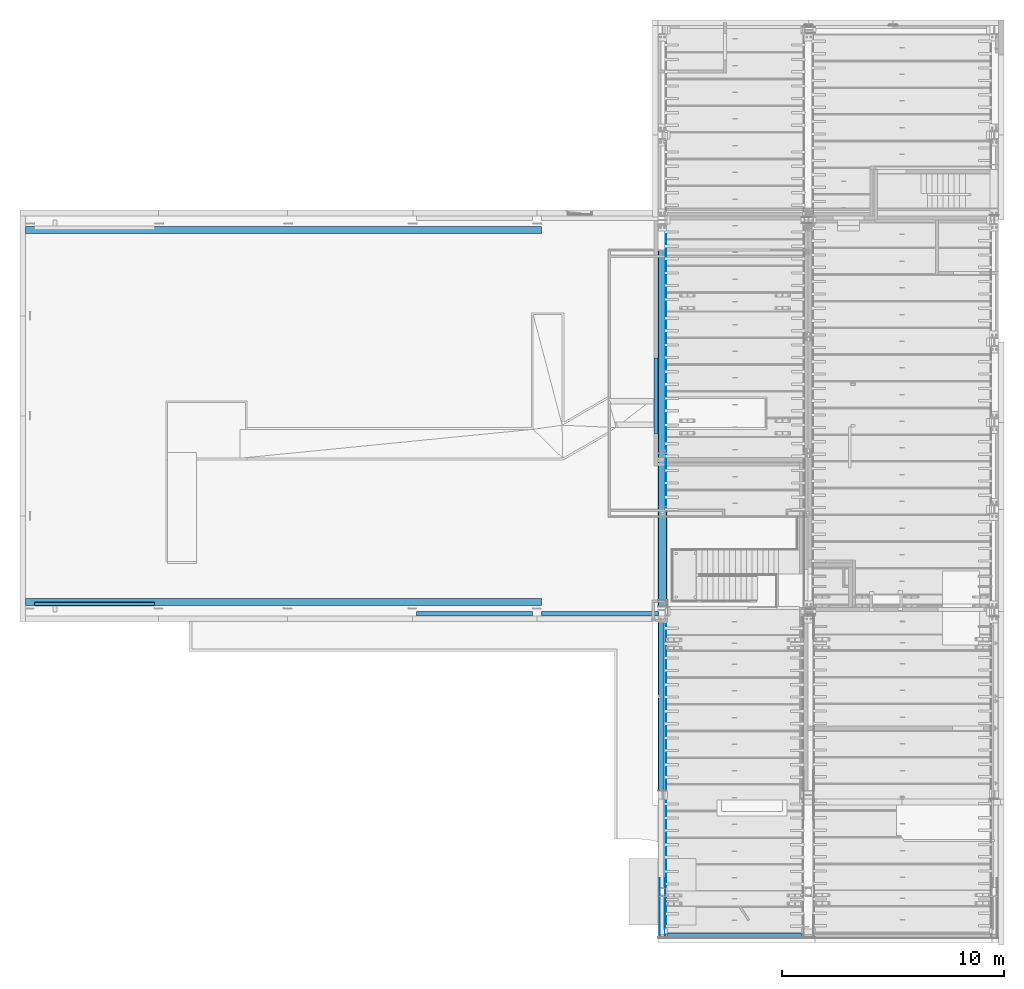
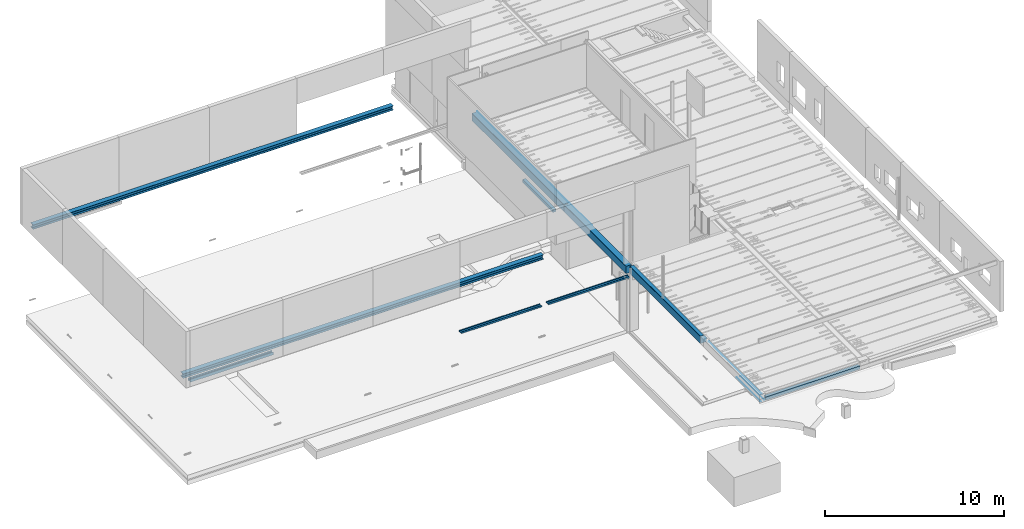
# One storey, part 7 of 230: 16 beams.
"""IFC4X3_ADD2 building model written with IfcOpenShell, lengths in millimetres."""

import ifcopenshell
import ifcopenshell.guid

model = None  # the IFC model being written
_history = None  # IfcOwnerHistory: only IFC2X3 demands one
_inside = {}  # id of a spatial element -> (the spatial element, [elements in it])
_under = {}  # id of a project, library or spatial element -> (it, [spatial elements below it])
_declared = {}  # id of a project -> (the project, [libraries it declares])
_typed = {}  # id of a type object -> (the type object, [elements of that type])
_made_of = {}  # id of a material, layer set ... -> (it, [elements and type objects made of it])


def new_model(schema):
    """Start an empty IFC model of exactly this schema.

    Asked for "IFC4X3", IfcOpenShell would pick the latest addendum, in which some entities
    have other attributes; the version numbers below select the first issue.
    IFC2X3 requires an IfcOwnerHistory on every rooted entity: one is made here for all.
    """
    global model, _history
    if schema == "IFC4X3":
        model = ifcopenshell.file(schema_version=(4, 3, 0, 0))
    else:
        model = ifcopenshell.file(schema=schema)
    _inside.clear()
    _under.clear()
    _declared.clear()
    _typed.clear()
    _made_of.clear()
    _history = None
    if model.schema == "IFC2X3":
        org = make("IfcOrganization", Name="unknown")
        user = make(
            "IfcPersonAndOrganization",
            ThePerson=make("IfcPerson", FamilyName="unknown"),
            TheOrganization=org,
        )
        app = make(
            "IfcApplication",
            ApplicationDeveloper=org,
            Version="unknown",
            ApplicationFullName="unknown",
            ApplicationIdentifier="unknown",
        )
        _history = make(
            "IfcOwnerHistory",
            OwningUser=user,
            OwningApplication=app,
            ChangeAction="ADDED",
            CreationDate=0,
        )
    return model


def make(cls, **values):
    """One entity of the class cls with the attributes given. An attribute that is None is left unset."""
    return model.create_entity(
        cls, **{name: value for name, value in values.items() if value is not None}
    )


def rooted(cls, **values):
    """An entity with a GlobalId (a new one), such as an element, a storey or a relation."""
    return make(cls, GlobalId=ifcopenshell.guid.new(), OwnerHistory=_history, **values)


def si_unit(unit_type, name, prefix=None):
    """IfcSIUnit, for example si_unit("LENGTHUNIT", "METRE", prefix="MILLI")."""
    return make("IfcSIUnit", UnitType=unit_type, Prefix=prefix, Name=name)


def assignment(units):
    """IfcUnitAssignment: the units of a project."""
    return None if units is None else make("IfcUnitAssignment", Units=units)


def point(xyz):
    """IfcCartesianPoint."""
    return None if xyz is None else make("IfcCartesianPoint", Coordinates=xyz)


def direction(xyz):
    """IfcDirection."""
    return None if xyz is None else make("IfcDirection", DirectionRatios=xyz)


def frame(location, z_axis=None, x_axis=None):
    """IfcAxis2Placement3D, a coordinate frame: its origin and axes. An axis left out is left unset."""
    return make(
        "IfcAxis2Placement3D",
        Location=point(location),
        Axis=direction(z_axis),
        RefDirection=direction(x_axis),
    )


def frame_2d(location, x_axis=None):
    """IfcAxis2Placement2D, a coordinate frame in the plane: its origin and x axis."""
    return make(
        "IfcAxis2Placement2D", Location=point(location), RefDirection=direction(x_axis)
    )


def origin_with_axes():
    """The frame at (0, 0, 0) with the z axis (0, 0, 1) and the x axis (1, 0, 0) written out."""
    return frame((0.0, 0.0, 0.0), z_axis=(0.0, 0.0, 1.0), x_axis=(1.0, 0.0, 0.0))


def place(relative_to, where):
    """IfcLocalPlacement: puts the frame where relative to a parent placement (None: the world)."""
    return make(
        "IfcLocalPlacement", PlacementRelTo=relative_to, RelativePlacement=where
    )


def context(
    kind, dimensions, precision=None, world=None, true_north=None, identifier=None
):
    """IfcGeometricRepresentationContext, for example the 3D "Model" context."""
    return make(
        "IfcGeometricRepresentationContext",
        ContextIdentifier=identifier,
        ContextType=kind,
        CoordinateSpaceDimension=dimensions,
        Precision=precision,
        WorldCoordinateSystem=world,
        TrueNorth=true_north,
    )


def subcontext(parent, identifier, kind, view, scale=None):
    """IfcGeometricRepresentationSubContext, for example "Body" below "Model"."""
    return make(
        "IfcGeometricRepresentationSubContext",
        ContextIdentifier=identifier,
        ContextType=kind,
        ParentContext=parent,
        TargetScale=scale,
        TargetView=view,
    )


def project(units=None, contexts=None):
    """IfcProject with its units and contexts."""
    return rooted(
        "IfcProject",
        Name="project",
        RepresentationContexts=contexts,
        UnitsInContext=assignment(units),
    )


def spatial(cls, under=None, at=None, **own):
    """A site, building, storey or space (cls), placed at a placement, below another one or the project."""
    s = rooted(cls, ObjectPlacement=at, **own)
    if under is not None:
        _under.setdefault(under.id(), (under, []))[1].append(s)
    return s


def point_list(points):
    """IfcCartesianPointList2D or 3D."""
    cls = (
        "IfcCartesianPointList2D" if len(points[0]) == 2 else "IfcCartesianPointList3D"
    )
    return make(cls, CoordList=points)


def indexed_curve(points, segments=None, self_intersect=None):
    """IfcIndexedPolyCurve: lines and arcs through numbered points (the first is 1)."""
    return make(
        "IfcIndexedPolyCurve",
        Points=point_list(points),
        Segments=segments,
        SelfIntersect=self_intersect,
    )


def profile(cls, at=None, kind="AREA", **sizes):
    """A parametric profile (cls). Its sizes go by their IFC names, for example OverallWidth=200.0."""
    return make(cls, ProfileType=kind, Position=at, **sizes)


def rectangle(**sizes):
    """IfcRectangleProfileDef."""
    return profile("IfcRectangleProfileDef", **sizes)


def i_section(**sizes):
    """IfcIShapeProfileDef."""
    return profile("IfcIShapeProfileDef", **sizes)


def outline(outer, holes=None, kind="AREA"):
    """IfcArbitraryClosedProfileDef: a profile drawn as a closed curve; with holes, ...WithVoids."""
    if holes is None:
        return make("IfcArbitraryClosedProfileDef", ProfileType=kind, OuterCurve=outer)
    return make(
        "IfcArbitraryProfileDefWithVoids",
        ProfileType=kind,
        OuterCurve=outer,
        InnerCurves=holes,
    )


def extrude(swept, where, along, depth):
    """IfcExtrudedAreaSolid: the profile swept, set in the frame where, extruded along a direction by depth."""
    return make(
        "IfcExtrudedAreaSolid",
        SweptArea=swept,
        Position=where,
        ExtrudedDirection=direction(along),
        Depth=depth,
    )


def shape(context_of_items, identifier, shape_type, items):
    """IfcShapeRepresentation: the items that make up one representation, for example the "Body"."""
    return make(
        "IfcShapeRepresentation",
        ContextOfItems=context_of_items,
        RepresentationIdentifier=identifier,
        RepresentationType=shape_type,
        Items=items,
    )


def material(Name=None, Category=None):
    """IfcMaterial."""
    return make("IfcMaterial", Name=Name, Category=Category)


def made_of(thing, what):
    """Note that an element or type object is made of a material, layer set ...; save() writes the relation."""
    if what is not None:
        _made_of.setdefault(what.id(), (what, []))[1].append(thing)
    return thing


def element(
    cls,
    number,
    at=None,
    inside=None,
    cuts=None,
    type_object=None,
    material=None,
    context=None,
    identifier="Body",
    shape_type=None,
    held_by="IfcProductDefinitionShape",
    body=None,
    shapes=None,
    **own,
):
    """One element of the class cls, such as IfcWall. Its Tag is "e" and its number.

    at: its placement. inside: the storey or other place that contains it. cuts: it is an
    opening in that element (IfcRelVoidsElement). A single representation is given by context,
    identifier, shape_type and body (its items); several are given by shapes. held_by: the class
    of the entity that holds the representations. save() writes the other relations.
    """
    e = rooted(cls, Tag="e%d" % number, ObjectPlacement=at, **own)
    if body is not None:
        shapes = [shape(context, identifier, shape_type, body)]
    if shapes is not None:
        e.Representation = make(held_by, Representations=shapes)
    if inside is not None:
        _inside.setdefault(inside.id(), (inside, []))[1].append(e)
    if cuts is not None:
        rooted(
            "IfcRelVoidsElement", RelatingBuildingElement=cuts, RelatedOpeningElement=e
        )
    if type_object is not None:
        _typed.setdefault(type_object.id(), (type_object, []))[1].append(e)
    return made_of(e, material)


def aggregate(whole, parts):
    """IfcRelAggregates: a whole, such as a stair, and the parts it consists of."""
    return rooted("IfcRelAggregates", RelatingObject=whole, RelatedObjects=parts)


def save(model, path):
    """Write the relations noted so far, then the file.

    IfcRelAggregates (storeys below a building ...), IfcRelContainedInSpatialStructure (elements
    in a storey), IfcRelDefinesByType, IfcRelAssociatesMaterial and IfcRelDeclares: one each for
    every whole, place, type object, material and project.
    """
    for whole, parts in _under.values():
        aggregate(whole, parts)
    for where, things in _inside.values():
        rooted(
            "IfcRelContainedInSpatialStructure",
            RelatedElements=things,
            RelatingStructure=where,
        )
    for kind, things in _typed.values():
        rooted("IfcRelDefinesByType", RelatedObjects=things, RelatingType=kind)
    for what, things in _made_of.values():
        rooted("IfcRelAssociatesMaterial", RelatedObjects=things, RelatingMaterial=what)
    for by, libraries in _declared.values():
        rooted("IfcRelDeclares", RelatingContext=by, RelatedDefinitions=libraries)
    model.write(path)


model = new_model("IFC4X3_ADD2")

# Units and contexts
model_context = context("Model", 3, precision=1e-05, world=origin_with_axes(), true_north=direction((0.0, 1.0)))
body_context = subcontext(model_context, "Body", "Model", "MODEL_VIEW")
ifc_project = project(units=[si_unit("LENGTHUNIT", "METRE", prefix="MILLI"), si_unit("AREAUNIT", "SQUARE_METRE"), si_unit("VOLUMEUNIT", "CUBIC_METRE"), si_unit("PLANEANGLEUNIT", "RADIAN"), si_unit("TIMEUNIT", "SECOND"), si_unit("MASSUNIT", "GRAM")], contexts=[model_context])

# Site, building, storey
site_placement = place(None, origin_with_axes())
site = spatial("IfcSite", under=ifc_project, at=site_placement, Name="Site", CompositionType="ELEMENT")
building_placement = place(site_placement, origin_with_axes())
building = spatial("IfcBuilding", under=site, at=building_placement, Name="IFC Building Story")
storey_placement = place(building_placement, origin_with_axes())
storey = spatial("IfcBuildingStorey", under=building, at=storey_placement, Name="ETAGE 00 (0)", Elevation=0.0)

# Beams
ifc_material_1 = material(Name="BS_28_Ossature en béton armé - Eléments coulé sur place")
beam_1_placement = place(storey_placement, frame((33601.68947816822, -14360.0, 3884.999999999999), z_axis=(1.0, 0.0, 0.0), x_axis=(0.0, 0.0, -1.0)))
element("IfcBeam", 1, at=beam_1_placement, inside=storey, material=ifc_material_1, Name="BS_28_SF_LE_Poutre rectangulaire_coulé:B.A. 20x(23+27)cm (C30/37)", ObjectType="B.A. 20x(23+27)cm (C30/37)", context=body_context, shape_type="SweptSolid", body=[
    extrude(rectangle(XDim=230.0, YDim=200.000000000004, at=frame_2d((0.0, 5.95523630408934e-12), x_axis=(1.0, 0.0))), origin_with_axes(), (0.0, 0.0, 1.0), 6059.999999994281),
])
ifc_material_2 = material(Name="BS_28_Métal")
beam_2_placement = place(storey_placement, frame((5170.044500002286, 545.0000000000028, 6000.0), z_axis=(1.0, 0.0, 0.0), x_axis=(0.0, 0.0, -1.0)))
element("IfcBeam", 2, at=beam_2_placement, inside=storey, material=ifc_material_2, Name="BS_28_SF_LE_HE-A:HEA200", ObjectType="HEA200 2", context=body_context, shape_type="SweptSolid", body=[
    extrude(i_section(OverallWidth=200.0, OverallDepth=190.0, WebThickness=6.50000000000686, FlangeThickness=10.0000000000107, FilletRadius=18.0000000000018, at=frame_2d((0.0, 5.95523630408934e-12), x_axis=(1.0, 0.0))), origin_with_axes(), (0.0, 0.0, 1.0), 5387.100000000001),
])
beam_3_placement = place(storey_placement, frame((33106.68947816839, 8209.9998266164, 3100.0), z_axis=(0.0, 1.0, 0.0), x_axis=(0.0, 0.0, -1.0)))
element("IfcBeam", 3, at=beam_3_placement, inside=storey, material=ifc_material_1, Name="BS_28_SF_LE_Poutre rectangulaire_coulé:L.P.", ObjectType="L.P.", context=body_context, shape_type="SweptSolid", body=[
    extrude(rectangle(XDim=200.0, YDim=190.0, at=frame_2d((0.0, 5.95523630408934e-12), x_axis=(1.0, 0.0))), origin_with_axes(), (0.0, 0.0, 1.0), 3400.0),
])
ifc_material_3 = material(Name="CONCRETE/C50/60 61830")
beam_4_placement = place(storey_placement, frame((33401.18800000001, 17590.0, 3750.000000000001), z_axis=(0.0, -1.0, 0.0), x_axis=(1.0, 0.0, 0.0)))
element("IfcBeam", 4, at=beam_4_placement, inside=storey, material=ifc_material_3, Name="BEAM", ObjectType="EB_R_500*390*15", context=body_context, shape_type="SweptSolid", body=[
    extrude(outline(indexed_curve([(-179.9999999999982, -250.0000000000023), (-194.999999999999, -234.9999999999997), (-194.9999999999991, 235.0000000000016), (-179.9999999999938, 250.0000000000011), (179.9999999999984, 250.0000000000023), (194.999999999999, 235.0000000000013), (194.9999999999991, -235.0000000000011), (179.9999999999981, -249.9999999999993), (-179.9999999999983, -250.0000000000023)])), origin_with_axes(), (0.0, 0.0, 1.0), 10245.1),
])
beam_5_placement = place(storey_placement, frame((33401.18800000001, 7304.999963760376, 3750.0), z_axis=(0.0, -1.0, 0.0), x_axis=(-1.0, 0.0, 0.0)))
element("IfcBeam", 5, at=beam_5_placement, inside=storey, material=ifc_material_3, Name="BEAM", ObjectType="EB_R_500*390*15", context=body_context, shape_type="SweptSolid", body=[
    extrude(outline(indexed_curve([(-179.9999999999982, -250.0000000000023), (-194.999999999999, -234.9999999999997), (-194.9999999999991, 235.0000000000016), (-179.9999999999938, 250.0000000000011), (179.9999999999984, 250.0000000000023), (194.999999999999, 235.0000000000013), (194.9999999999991, -235.0000000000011), (179.9999999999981, -249.9999999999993), (-179.9999999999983, -250.0000000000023)])), origin_with_axes(), (0.0, 0.0, 1.0), 6885.0),
])
ifc_material_4 = material(Name="CONCRETE/C60/75 114932")
beam_6_placement = place(storey_placement, frame((33401.18799999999, -20.0, 4020.0), z_axis=(0.0, -1.0, 0.0), x_axis=(-1.0, 0.0, 0.0)))
element("IfcBeam", 6, at=beam_6_placement, inside=storey, material=ifc_material_4, Name="BEAM", ObjectType="EB_RL_A500*390*225*150*15", context=body_context, shape_type="SweptSolid", body=[
    extrude(outline(indexed_curve([(-194.9999999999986, 235.0000000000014), (-179.9999999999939, 250.0), (179.9999999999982, 250.0), (194.9999999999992, 235.0), (194.9999999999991, -235.0000000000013), (179.9999999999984, -250.0), (-44.99999999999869, -250.0), (-44.99999999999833, 24.99999999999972), (-179.9999999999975, 24.99999999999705), (-194.9999999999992, 40.0), (-194.9999999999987, 235.0000000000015)])), origin_with_axes(), (0.0, 0.0, 1.0), 7840.0),
])
for number, where, z_axis, x_axis in (
    (7, (4765.689348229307, 639.999963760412, 6435.0), (1.0, 0.0, 0.0), (0.0, 1.0, 0.0)),
    (8, (4765.689348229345, 17359.99972534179, 6435.0), (1.0, 0.0, 0.0), (0.0, 1.0, 0.0)),
):
    element("IfcBeam", number, at=place(storey_placement, frame(where, z_axis=z_axis, x_axis=x_axis)), inside=storey, material=ifc_material_2, Name="BS_28_SF_LE_HE-A:HEA300", ObjectType="HEA300", context=body_context, shape_type="SweptSolid", body=[
        extrude(i_section(OverallWidth=300.000000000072, OverallDepth=289.999999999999, WebThickness=8.49999999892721, FlangeThickness=14.0000000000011, FilletRadius=27.0000000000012, at=frame_2d((0.0, 5.95523630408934e-12), x_axis=(1.0, 0.0))), origin_with_axes(), (0.0, 0.0, 1.0), 23185.4999999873),
    ])
beam_7_placement = place(storey_placement, frame((22351.1892084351, 109.999963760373, 3525.0), z_axis=(1.0, 0.0, 0.0), x_axis=(0.0, 0.0, -1.0)))
element("IfcBeam", 9, at=beam_7_placement, inside=storey, material=ifc_material_2, Name="BS_28_SF_LE_IPE:IPE220", ObjectType="IPE220", context=body_context, shape_type="SweptSolid", body=[
    extrude(i_section(OverallWidth=110.0, OverallDepth=220.0, WebThickness=5.89999999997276, FlangeThickness=9.19999999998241, FilletRadius=12.0, at=frame_2d((0.0, 5.95523630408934e-12), x_axis=(1.0, 0.0))), origin_with_axes(), (0.0, 0.0, 1.0), 5209.99942779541),
])
beam_8_placement = place(storey_placement, frame((33210.1882547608, 109.999963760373, 3525.0), z_axis=(-1.0, 0.0, 0.0), x_axis=(0.0, 0.0, -1.0)))
element("IfcBeam", 10, at=beam_8_placement, inside=storey, material=ifc_material_2, Name="BS_28_SF_LE_IPE:IPE220", ObjectType="IPE220", context=body_context, shape_type="SweptSolid", body=[
    extrude(i_section(OverallWidth=110.0, OverallDepth=220.0, WebThickness=5.89999999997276, FlangeThickness=9.19999999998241, FilletRadius=12.0, at=frame_2d((0.0, 5.95523630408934e-12), x_axis=(1.0, 0.0))), origin_with_axes(), (0.0, 0.0, 1.0), 5258.999618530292),
])
ifc_material_5 = material(Name="STEEL/Accessory_Rubber")
beam_9_placement = place(storey_placement, frame((33536.188, 12467.45, 4002.0), z_axis=(1.0, 0.0, 0.0), x_axis=(0.0, 0.0, 1.0)))
element("IfcBeam", 11, at=beam_9_placement, inside=storey, material=ifc_material_5, Name="NE6", ObjectType="4*30 5", context=body_context, shape_type="SweptSolid", body=[
    extrude(rectangle(XDim=4.0, YDim=10245.1, at=frame_2d((0.0, 5.95523630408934e-12), x_axis=(1.0, 0.0))), origin_with_axes(), (0.0, 0.0, 1.0), 30.0),
])
beam_10_placement = place(storey_placement, frame((33536.188, 6054.99996376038, 4002.0), z_axis=(1.0, 0.0, 0.0), x_axis=(0.0, 0.0, 1.0)))
element("IfcBeam", 12, at=beam_10_placement, inside=storey, material=ifc_material_5, Name="NE6", ObjectType="4*30 6", context=body_context, shape_type="SweptSolid", body=[
    extrude(rectangle(XDim=4.0, YDim=2500.0, at=frame_2d((0.0, 5.95523630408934e-12), x_axis=(1.0, 0.0))), origin_with_axes(), (0.0, 0.0, 1.0), 30.0),
])
beam_11_placement = place(storey_placement, frame((33536.188, -11140.0, 3997.0), z_axis=(1.0, 0.0, 0.0), x_axis=(0.0, 0.0, -1.0)))
element("IfcBeam", 13, at=beam_11_placement, inside=storey, material=ifc_material_5, Name="NE6", ObjectType="4*30 14", context=body_context, shape_type="SweptSolid", body=[
    extrude(rectangle(XDim=3.99999999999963, YDim=5860.0, at=frame_2d((0.0, 5.95523630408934e-12), x_axis=(1.0, 0.0))), origin_with_axes(), (0.0, 0.0, 1.0), 30.0),
])
ifc_material_6 = material(Name="STEEL/Accessory 32414")
for number, where, z_axis, x_axis, name in (
    (14, (33276.188, -11790.0, 3820.0), (0.0, -1.0, 0.0), (0.923879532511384, 0.0, 0.3826834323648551), "ZW6"),
    (15, (33526.18799999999, -11790.0, 3820.0), (0.0, -1.0, 0.0), (0.923879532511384, 0.0, 0.3826834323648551), "ZW6"),
):
    element("IfcBeam", number, at=place(storey_placement, frame(where, z_axis=z_axis, x_axis=x_axis)), inside=storey, material=ifc_material_6, Name=name, ObjectType="D14", context=body_context, shape_type="SweptSolid", body=[
        extrude(outline(indexed_curve([(2.678784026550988, 6.467156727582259), (6.467156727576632, 2.678784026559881), (6.467156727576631, -2.678784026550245), (2.67878402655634, -6.467156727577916), (-2.67878402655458, -6.467156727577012), (-6.46715672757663, -2.678784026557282), (-6.467156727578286, 2.678784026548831), (-2.67878402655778, 6.467156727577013), (2.678784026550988, 6.46715672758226)])), origin_with_axes(), (0.0, 0.0, 1.0), 2650.0),
    ])
beam_12_placement = place(storey_placement, frame((33536.188, -3940.0, 3997.0), z_axis=(1.0, 0.0, 0.0), x_axis=(0.0, 0.0, -1.0)))
element("IfcBeam", 16, at=beam_12_placement, inside=storey, material=ifc_material_5, Name="NE6", ObjectType="4*30 15", context=body_context, shape_type="SweptSolid", body=[
    extrude(rectangle(XDim=3.99999999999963, YDim=7840.0, at=frame_2d((0.0, 5.95523630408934e-12), x_axis=(1.0, 0.0))), origin_with_axes(), (0.0, 0.0, 1.0), 30.0),
])

save(model, "model.ifc")
